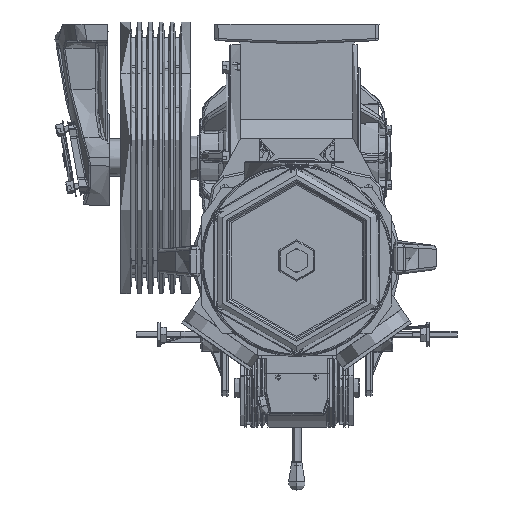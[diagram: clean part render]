
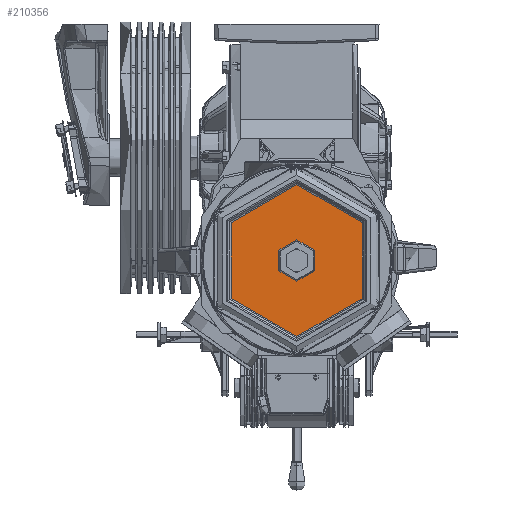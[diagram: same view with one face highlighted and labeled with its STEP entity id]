
A CAD part, front view. The second image highlights one B-rep face of the part: STEP entity #210356.
In plain terms, the highlighted planar face has unit normal (0, -1, 0).
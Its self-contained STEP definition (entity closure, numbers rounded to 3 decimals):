
#1138 = ORIENTED_EDGE ( 'NONE', *, *, #22870, .F. ) ;
#2774 = CARTESIAN_POINT ( 'NONE',  ( -261.487, -108.994, 986.746 ) ) ;
#5276 = CARTESIAN_POINT ( 'NONE',  ( -261.487, -108.994, 956.589 ) ) ;
#22870 = EDGE_CURVE ( 'NONE', #160290, #140196, #168979, .T. ) ;
#23197 = DIRECTION ( 'NONE',  ( 0., 0., -1. ) ) ;
#24392 = CARTESIAN_POINT ( 'NONE',  ( -261.487, -108.994, 956.589 ) ) ;
#30093 = CARTESIAN_POINT ( 'NONE',  ( -261.487, -108.994, 1067.347 ) ) ;
#36360 = EDGE_CURVE ( 'NONE', #140196, #160290, #197792, .T. ) ;
#39991 = EDGE_CURVE ( 'NONE', #127258, #92406, #201823, .T. ) ;
#54402 = DIRECTION ( 'NONE',  ( 0., 0., -1. ) ) ;
#59139 = AXIS2_PLACEMENT_3D ( 'NONE', #5276, #162836, #54402 ) ;
#69592 = CARTESIAN_POINT ( 'NONE',  ( -261.487, -108.994, 845.832 ) ) ;
#73276 = CARTESIAN_POINT ( 'NONE',  ( -261.487, -108.994, 926.433 ) ) ;
#77310 = AXIS2_PLACEMENT_3D ( 'NONE', #199788, #110802, #180401 ) ;
#85182 = AXIS2_PLACEMENT_3D ( 'NONE', #125982, #179575, #23197 ) ;
#92406 = VERTEX_POINT ( 'NONE', #69592 ) ;
#93653 = ORIENTED_EDGE ( 'NONE', *, *, #39991, .T. ) ;
#99725 = AXIS2_PLACEMENT_3D ( 'NONE', #119816, #224827, #207702 ) ;
#104478 = EDGE_CURVE ( 'NONE', #92406, #127258, #179442, .T. ) ;
#110802 = DIRECTION ( 'NONE',  ( 0., -1., 0. ) ) ;
#119816 = CARTESIAN_POINT ( 'NONE',  ( -261.487, -108.994, 956.589 ) ) ;
#124841 = FACE_OUTER_BOUND ( 'NONE', #184178, .T. ) ;
#125982 = CARTESIAN_POINT ( 'NONE',  ( -149.487, -108.994, 956.589 ) ) ;
#126044 = DIRECTION ( 'NONE',  ( 0., -1., 0. ) ) ;
#127258 = VERTEX_POINT ( 'NONE', #30093 ) ;
#140196 = VERTEX_POINT ( 'NONE', #2774 ) ;
#140851 = FACE_BOUND ( 'NONE', #223384, .T. ) ;
#158284 = ORIENTED_EDGE ( 'NONE', *, *, #36360, .F. ) ;
#160290 = VERTEX_POINT ( 'NONE', #73276 ) ;
#162836 = DIRECTION ( 'NONE',  ( 0., -1., 0. ) ) ;
#168979 = CIRCLE ( 'NONE', #99725, 30.156 ) ;
#172477 = ORIENTED_EDGE ( 'NONE', *, *, #104478, .T. ) ;
#176254 = AXIS2_PLACEMENT_3D ( 'NONE', #24392, #126044, #195671 ) ;
#179442 = CIRCLE ( 'NONE', #59139, 110.757 ) ;
#179575 = DIRECTION ( 'NONE',  ( 0., -1., 0. ) ) ;
#180401 = DIRECTION ( 'NONE',  ( 0., 0., -1. ) ) ;
#184178 = EDGE_LOOP ( 'NONE', ( #172477, #93653 ) ) ;
#194475 = PLANE ( 'NONE',  #85182 ) ;
#195671 = DIRECTION ( 'NONE',  ( 0., 0., -1. ) ) ;
#197792 = CIRCLE ( 'NONE', #77310, 30.156 ) ;
#199788 = CARTESIAN_POINT ( 'NONE',  ( -261.487, -108.994, 956.589 ) ) ;
#201823 = CIRCLE ( 'NONE', #176254, 110.757 ) ;
#207702 = DIRECTION ( 'NONE',  ( 0., 0., -1. ) ) ;
#210356 = ADVANCED_FACE ( 'NONE', ( #124841, #140851 ), #194475, .T. ) ;
#223384 = EDGE_LOOP ( 'NONE', ( #158284, #1138 ) ) ;
#224827 = DIRECTION ( 'NONE',  ( 0., -1., 0. ) ) ;
